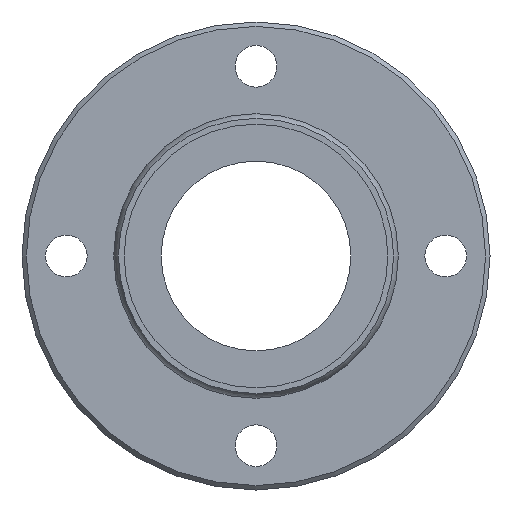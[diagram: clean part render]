
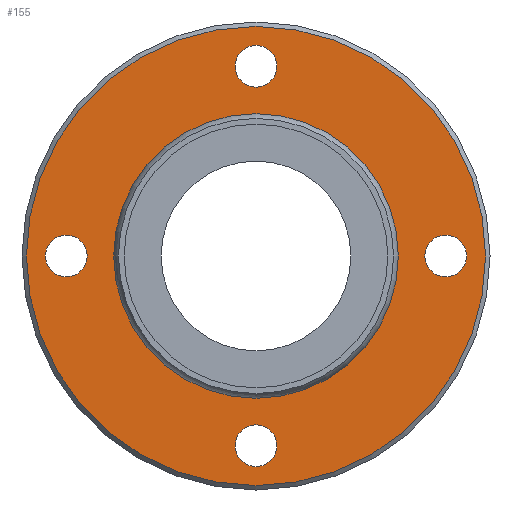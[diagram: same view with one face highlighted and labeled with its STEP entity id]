
A CAD part, left-side view. The second image highlights one B-rep face of the part: STEP entity #155.
In plain terms, the highlighted planar face has unit normal (-1, 0, 0).
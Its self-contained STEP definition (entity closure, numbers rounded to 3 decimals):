
#60=CARTESIAN_POINT('',(15.,0.,36.3));
#61=VERTEX_POINT('',#60);
#62=CARTESIAN_POINT('',(15.,0.0,0.0));
#63=DIRECTION('',(1.0,0.0,0.0));
#64=DIRECTION('',(0.0,0.0,-1.0));
#65=AXIS2_PLACEMENT_3D('',#62,#63,#64);
#66=CIRCLE('',#65,36.3);
#67=EDGE_CURVE('',#61,#61,#66,.T.);
#92=CARTESIAN_POINT('',(15.,0.0,29.563));
#93=DIRECTION('',(-1.0,0.0,0.0));
#94=DIRECTION('',(0.0,0.0,1.0));
#95=AXIS2_PLACEMENT_3D('',#92,#93,#94);
#96=PLANE('',#95);
#97=ORIENTED_EDGE('',*,*,#67,.F.);
#98=EDGE_LOOP('',(#97));
#99=FACE_OUTER_BOUND('',#98,.T.);
#100=CARTESIAN_POINT('',(15.,0.0,22.127));
#101=VERTEX_POINT('',#100);
#102=CARTESIAN_POINT('',(15.0,0.0,0.0));
#103=DIRECTION('',(-1.0,0.0,0.0));
#104=DIRECTION('',(0.0,0.0,1.0));
#105=AXIS2_PLACEMENT_3D('',#102,#103,#104);
#106=CIRCLE('',#105,22.127);
#107=EDGE_CURVE('',#101,#101,#106,.T.);
#108=ORIENTED_EDGE('',*,*,#107,.F.);
#109=EDGE_LOOP('',(#108));
#110=FACE_BOUND('',#109,.T.);
#111=CARTESIAN_POINT('',(15.0,26.7,0.));
#112=VERTEX_POINT('',#111);
#113=CARTESIAN_POINT('',(15.0,30.0,0.));
#114=DIRECTION('',(1.0,0.0,0.0));
#115=DIRECTION('',(0.0,1.0,0.0));
#116=AXIS2_PLACEMENT_3D('',#113,#114,#115);
#117=CIRCLE('',#116,3.3);
#118=EDGE_CURVE('',#112,#112,#117,.T.);
#119=ORIENTED_EDGE('',*,*,#118,.T.);
#120=EDGE_LOOP('',(#119));
#121=FACE_BOUND('',#120,.T.);
#122=CARTESIAN_POINT('',(15.0,-33.3,0.));
#123=VERTEX_POINT('',#122);
#124=CARTESIAN_POINT('',(15.0,-30.0,0.0));
#125=DIRECTION('',(1.0,0.0,0.0));
#126=DIRECTION('',(0.0,1.0,0.0));
#127=AXIS2_PLACEMENT_3D('',#124,#125,#126);
#128=CIRCLE('',#127,3.3);
#129=EDGE_CURVE('',#123,#123,#128,.T.);
#130=ORIENTED_EDGE('',*,*,#129,.T.);
#131=EDGE_LOOP('',(#130));
#132=FACE_BOUND('',#131,.T.);
#133=CARTESIAN_POINT('',(15.0,-3.3,30.0));
#134=VERTEX_POINT('',#133);
#135=CARTESIAN_POINT('',(15.0,0.,30.0));
#136=DIRECTION('',(1.0,0.0,0.0));
#137=DIRECTION('',(0.0,1.0,0.0));
#138=AXIS2_PLACEMENT_3D('',#135,#136,#137);
#139=CIRCLE('',#138,3.3);
#140=EDGE_CURVE('',#134,#134,#139,.T.);
#141=ORIENTED_EDGE('',*,*,#140,.T.);
#142=EDGE_LOOP('',(#141));
#143=FACE_BOUND('',#142,.T.);
#144=CARTESIAN_POINT('',(15.0,-3.3,-30.0));
#145=VERTEX_POINT('',#144);
#146=CARTESIAN_POINT('',(15.0,0.,-30.0));
#147=DIRECTION('',(1.0,0.0,0.0));
#148=DIRECTION('',(0.0,1.0,0.0));
#149=AXIS2_PLACEMENT_3D('',#146,#147,#148);
#150=CIRCLE('',#149,3.3);
#151=EDGE_CURVE('',#145,#145,#150,.T.);
#152=ORIENTED_EDGE('',*,*,#151,.T.);
#153=EDGE_LOOP('',(#152));
#154=FACE_BOUND('',#153,.T.);
#155=ADVANCED_FACE('',(#99,#110,#121,#132,#143,#154),#96,.T.);
